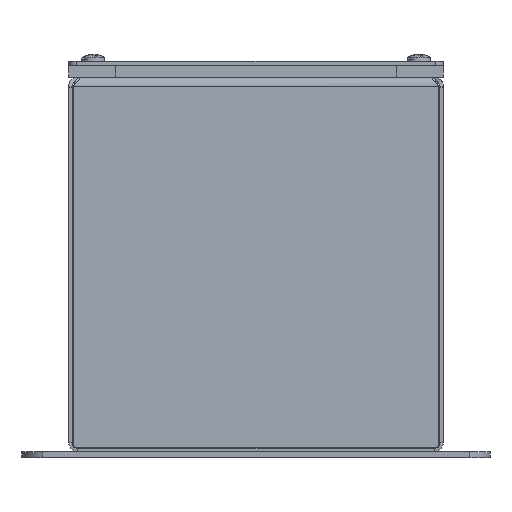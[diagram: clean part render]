
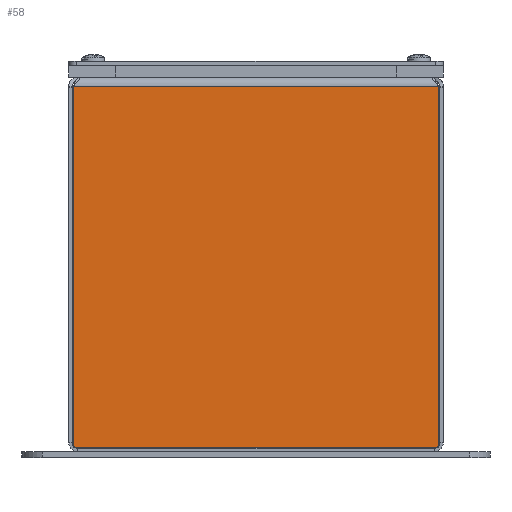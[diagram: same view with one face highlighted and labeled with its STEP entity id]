
A CAD part, left-side view. The second image highlights one B-rep face of the part: STEP entity #58.
In plain terms, the highlighted planar face has unit normal (-1, 0, 0) as drawn and (0, 1, 0) by its records, which use the part's own axes.
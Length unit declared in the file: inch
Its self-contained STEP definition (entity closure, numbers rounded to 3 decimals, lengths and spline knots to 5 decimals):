
#21 = VERTEX_POINT ( 'NONE', #461 ) ;
#34 = CARTESIAN_POINT ( 'NONE',  ( -5.93186, 0., 2.93186 ) ) ;
#57 = VECTOR ( 'NONE', #8252, 39.37008 ) ;
#58 = ADVANCED_FACE ( 'NONE', ( #2665 ), #3895, .T. ) ;
#460 = EDGE_CURVE ( 'NONE', #21, #3560, #6133, .T. ) ;
#461 = CARTESIAN_POINT ( 'NONE',  ( -0.144, 0., 2.92479 ) ) ;
#753 = LINE ( 'NONE', #34, #2147 ) ;
#936 = ORIENTED_EDGE ( 'NONE', *, *, #9111, .F. ) ;
#1204 = DIRECTION ( 'NONE',  ( 0., 1., 0. ) ) ;
#1364 = CARTESIAN_POINT ( 'NONE',  ( -0.16177, 0., -2.93186 ) ) ;
#1880 = LINE ( 'NONE', #1364, #8167 ) ;
#2052 = EDGE_LOOP ( 'NONE', ( #2175, #2544, #8247, #6144, #9873, #936 ) ) ;
#2122 = CARTESIAN_POINT ( 'NONE',  ( -5.93186, 0., 2.93186 ) ) ;
#2147 = VECTOR ( 'NONE', #3255, 39.37008 ) ;
#2175 = ORIENTED_EDGE ( 'NONE', *, *, #10158, .T. ) ;
#2176 = DIRECTION ( 'NONE',  ( 0.929, 0., 0.37 ) ) ;
#2544 = ORIENTED_EDGE ( 'NONE', *, *, #460, .F. ) ;
#2665 = FACE_OUTER_BOUND ( 'NONE', #2052, .T. ) ;
#2749 = DIRECTION ( 'NONE',  ( 0., 0., -1. ) ) ;
#2756 = VECTOR ( 'NONE', #2749, 39.37008 ) ;
#2868 = EDGE_CURVE ( 'NONE', #21, #4914, #9069, .T. ) ;
#3221 = VERTEX_POINT ( 'NONE', #10304 ) ;
#3255 = DIRECTION ( 'NONE',  ( 0., 0., -1. ) ) ;
#3270 = EDGE_CURVE ( 'NONE', #7887, #4914, #1880, .T. ) ;
#3281 = CARTESIAN_POINT ( 'NONE',  ( -0.16177, 0., -2.93186 ) ) ;
#3560 = VERTEX_POINT ( 'NONE', #9906 ) ;
#3887 = DIRECTION ( 'NONE',  ( -0.929, 0., 0.37 ) ) ;
#3895 = PLANE ( 'NONE',  #10104 ) ;
#4846 = VECTOR ( 'NONE', #6892, 39.37008 ) ;
#4914 = VERTEX_POINT ( 'NONE', #4973 ) ;
#4973 = CARTESIAN_POINT ( 'NONE',  ( -0.144, 0., -2.92479 ) ) ;
#5093 = LINE ( 'NONE', #8529, #4846 ) ;
#6133 = LINE ( 'NONE', #8770, #6402 ) ;
#6144 = ORIENTED_EDGE ( 'NONE', *, *, #3270, .F. ) ;
#6402 = VECTOR ( 'NONE', #3887, 39.37008 ) ;
#6867 = EDGE_CURVE ( 'NONE', #3221, #7887, #8779, .T. ) ;
#6892 = DIRECTION ( 'NONE',  ( 1., 0., 0. ) ) ;
#6921 = DIRECTION ( 'NONE',  ( 0., 0., 1. ) ) ;
#7404 = CARTESIAN_POINT ( 'NONE',  ( -5.93186, 0., -2.93186 ) ) ;
#7676 = CARTESIAN_POINT ( 'NONE',  ( -0.144, 0., 2.92479 ) ) ;
#7887 = VERTEX_POINT ( 'NONE', #3281 ) ;
#8167 = VECTOR ( 'NONE', #2176, 39.37008 ) ;
#8247 = ORIENTED_EDGE ( 'NONE', *, *, #2868, .T. ) ;
#8252 = DIRECTION ( 'NONE',  ( 1., 0., 0. ) ) ;
#8529 = CARTESIAN_POINT ( 'NONE',  ( -5.93186, 0., 2.93186 ) ) ;
#8770 = CARTESIAN_POINT ( 'NONE',  ( -0.16177, 0., 2.93186 ) ) ;
#8779 = LINE ( 'NONE', #7404, #57 ) ;
#9069 = LINE ( 'NONE', #7676, #2756 ) ;
#9111 = EDGE_CURVE ( 'NONE', #9555, #3221, #753, .T. ) ;
#9555 = VERTEX_POINT ( 'NONE', #2122 ) ;
#9873 = ORIENTED_EDGE ( 'NONE', *, *, #6867, .F. ) ;
#9906 = CARTESIAN_POINT ( 'NONE',  ( -0.16177, 0., 2.93186 ) ) ;
#10104 = AXIS2_PLACEMENT_3D ( 'NONE', #10223, #1204, #6921 ) ;
#10158 = EDGE_CURVE ( 'NONE', #9555, #3560, #5093, .T. ) ;
#10223 = CARTESIAN_POINT ( 'NONE',  ( -5.93186, 0., 2.93186 ) ) ;
#10304 = CARTESIAN_POINT ( 'NONE',  ( -5.93186, 0., -2.93186 ) ) ;
